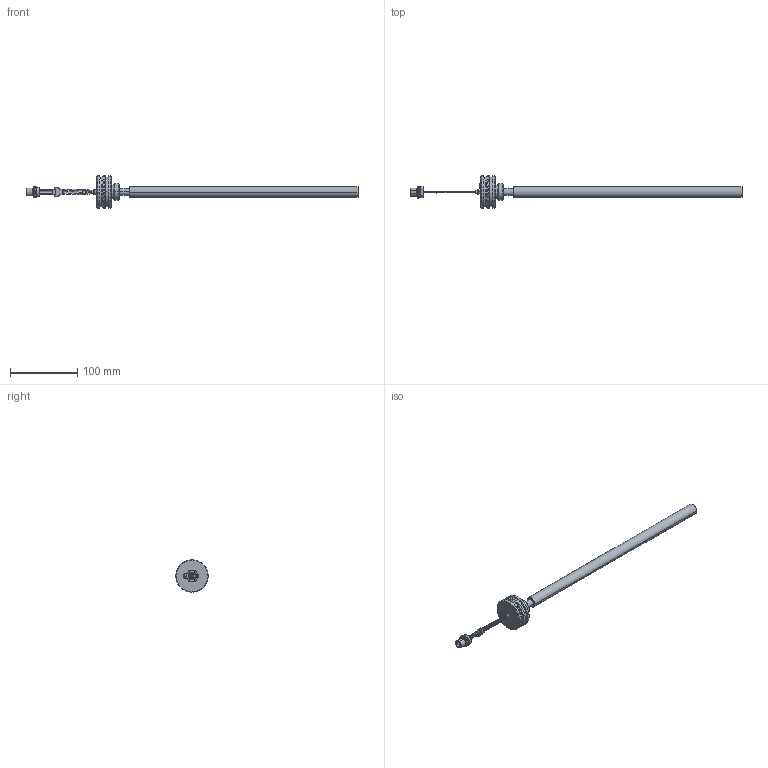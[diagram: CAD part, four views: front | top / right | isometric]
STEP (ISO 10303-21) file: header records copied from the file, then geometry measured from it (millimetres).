
FILE_DESCRIPTION((''),'2;1');
FILE_NAME('EDS-300-Z-LA-3L_MIT_MESSROHR_AS_ASM','2008-01-02T',('11000065'),(''),'PRO/ENGINEER BY PARAMETRIC TECHNOLOGY CORPORATION, 2007160','PRO/ENGINEER BY PARAMETRIC TECHNOLOGY CORPORATION, 2007160','');
FILE_SCHEMA(('AUTOMOTIVE_DESIGN { 1 2 10303 214 0 1 1 1 }'));
Length unit declared in the file: millimetre
Products named in the file (3): EDS-300-Z-LA-3L_1; MESSROHR_1; EDS-300-Z-LA-3L_MIT_MESSROHR_AS_ASM
Assembly tree (2 placements, depth 2):
  EDS-300-Z-LA-3L_MIT_MESSROHR_AS_ASM
    EDS-300-Z-LA-3L_1
    MESSROHR_1
Bounding box: 493.49 x 48 x 48 mm (x, y, z)
Volume: 23380.1 mm3; surface area: 54694.7 mm2
Topology: 2 solids, 10 shells, 568 faces, 1588 edges, 1014 vertices
Faces by surface type: plane 371, cylinder 99, torus 46, cone 44, bspline 8
Entity records: 21164 total; most frequent: CARTESIAN_POINT 5570, ORIENTED_EDGE 3115, DIRECTION 3046, EDGE_CURVE 1589, AXIS2_PLACEMENT_3D 1023, VERTEX_POINT 1014, VECTOR 1000, LINE 1000
